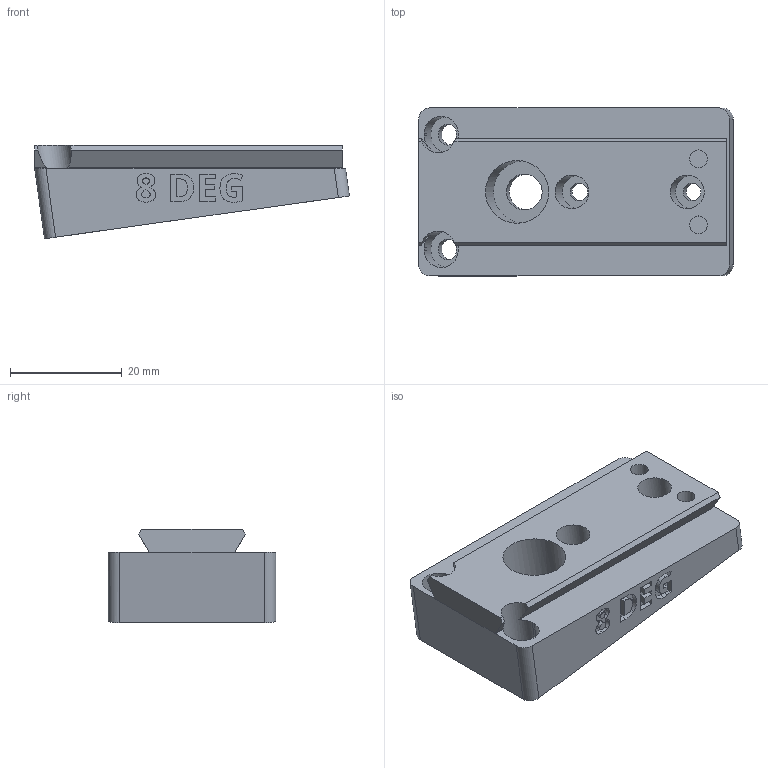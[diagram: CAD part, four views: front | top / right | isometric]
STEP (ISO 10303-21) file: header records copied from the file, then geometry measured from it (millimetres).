
FILE_DESCRIPTION(/* description */ ('STEP AP242 Edition 2','CAx-IF Rec.Pracs.---Representation and Presentation of Product Manufacturing Information (PMI)---4.0---2014-10-13','CAx-IF Rec.Pracs.---3D Tessellated Geometry---0.4---2014-09-14','2;1','CAx-IF Rec.Pracs.---User Defined Attributes---1.5---2016-08-15'),/* implementation_level */ '2;1');
FILE_NAME(/* name */ 'Camera Wedges - CAMERA MOUNTING WEDGE, POS, 8 DEG',/* time_stamp */ '2026-07-08T20:41:00Z',/* author */ (''),/* organization */ (''),/* preprocessor_version */ 'ST-DEVELOPER v20',/* originating_system */ 'ONSHAPE BY PTC INC, 1.217',/* authorisation */ ' ');
FILE_SCHEMA (('AP242_MANAGED_MODEL_BASED_3D_ENGINEERING_MIM_LF { 1 0 10303 442 3 1 4 }'));
Length unit declared in the file: metre
Products named in the file (1): CAMERA MOUNTING WEDGE, POS, 8 DEG
Bounding box: 56.24 x 30 x 16.71 mm (x, y, z)
Volume: 15310.1 mm3; surface area: 7043.5 mm2
Topology: 1 solids, 1 shells, 239 faces, 652 edges, 435 vertices
Faces by surface type: plane 113, bspline 78, cylinder 48
Full cylindrical faces by diameter (mm): 3.2 x4, 6 x2, 6.4 x1, 11.2 x1
Entity records: 7789 total; most frequent: CARTESIAN_POINT 2171, ORIENTED_EDGE 1282, DIRECTION 917, EDGE_CURVE 641, VERTEX_POINT 432, LINE 377, VECTOR 377, EDGE_LOOP 277
